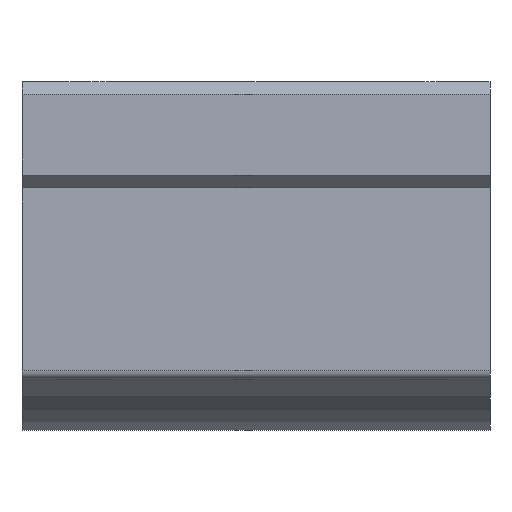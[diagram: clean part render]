
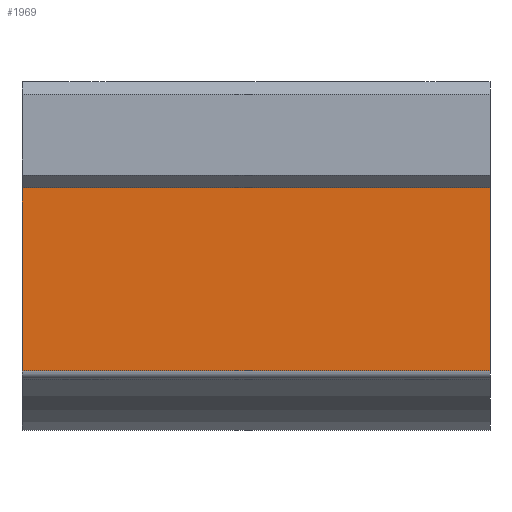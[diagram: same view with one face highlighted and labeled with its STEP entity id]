
A CAD part, front view. The second image highlights one B-rep face of the part: STEP entity #1969.
In plain terms, the highlighted planar face has unit normal (0, -1, 0).
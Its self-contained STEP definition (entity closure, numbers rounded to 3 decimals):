
#1698=CARTESIAN_POINT('',(55.0,-25.5,8.5));
#1699=VERTEX_POINT('',#1698);
#1706=CARTESIAN_POINT('',(55.0,-25.5,-13.));
#1707=VERTEX_POINT('',#1706);
#1708=CARTESIAN_POINT('',(55.0,-25.5,-13.));
#1709=DIRECTION('',(0.0,0.0,1.0));
#1710=VECTOR('',#1709,21.5);
#1711=LINE('',#1708,#1710);
#1712=EDGE_CURVE('',#1707,#1699,#1711,.T.);
#1776=CARTESIAN_POINT('',(0.0,-25.5,-13.));
#1777=VERTEX_POINT('',#1776);
#1778=CARTESIAN_POINT('',(55.0,-25.5,-13.));
#1779=DIRECTION('',(-1.0,0.0,0.0));
#1780=VECTOR('',#1779,55.0);
#1781=LINE('',#1778,#1780);
#1782=EDGE_CURVE('',#1707,#1777,#1781,.T.);
#1842=CARTESIAN_POINT('',(0.0,-25.5,8.5));
#1843=VERTEX_POINT('',#1842);
#1844=CARTESIAN_POINT('',(0.0,-25.5,8.5));
#1845=DIRECTION('',(0.0,0.0,-1.0));
#1846=VECTOR('',#1845,21.5);
#1847=LINE('',#1844,#1846);
#1848=EDGE_CURVE('',#1843,#1777,#1847,.T.);
#1953=CARTESIAN_POINT('',(0.0,-25.5,-14.));
#1954=DIRECTION('',(0.0,-1.0,0.0));
#1955=DIRECTION('',(0.0,0.0,-1.0));
#1956=AXIS2_PLACEMENT_3D('',#1953,#1954,#1955);
#1957=PLANE('',#1956);
#1958=ORIENTED_EDGE('',*,*,#1782,.F.);
#1959=ORIENTED_EDGE('',*,*,#1712,.T.);
#1960=CARTESIAN_POINT('',(0.0,-25.5,8.5));
#1961=DIRECTION('',(1.0,0.0,0.0));
#1962=VECTOR('',#1961,55.0);
#1963=LINE('',#1960,#1962);
#1964=EDGE_CURVE('',#1843,#1699,#1963,.T.);
#1965=ORIENTED_EDGE('',*,*,#1964,.F.);
#1966=ORIENTED_EDGE('',*,*,#1848,.T.);
#1967=EDGE_LOOP('',(#1958,#1959,#1965,#1966));
#1968=FACE_OUTER_BOUND('',#1967,.T.);
#1969=ADVANCED_FACE('',(#1968),#1957,.T.);
